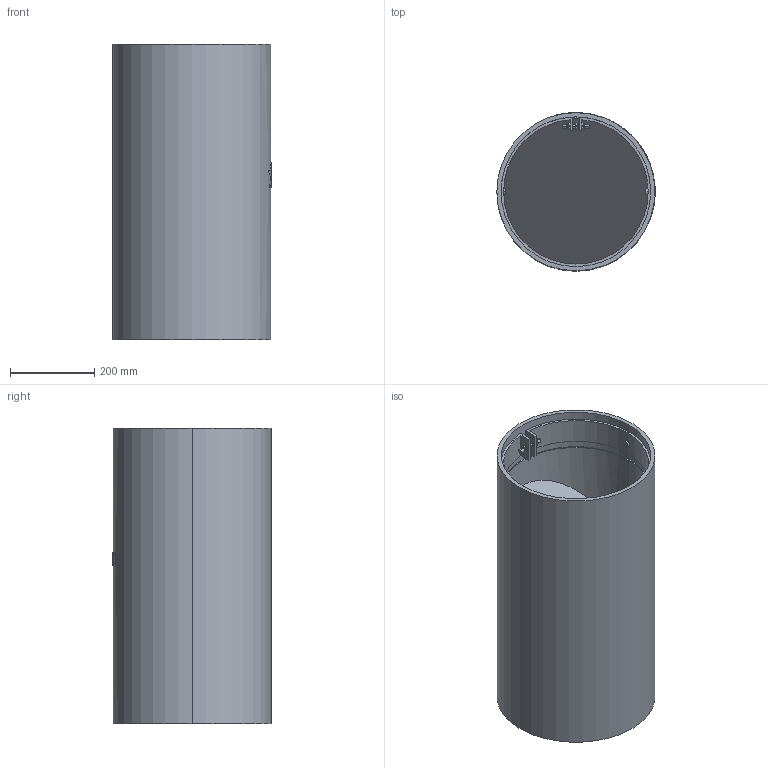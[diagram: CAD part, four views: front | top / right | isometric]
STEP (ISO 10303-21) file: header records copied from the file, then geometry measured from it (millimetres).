
FILE_DESCRIPTION (( 'STEP AP214' ), '1' );
FILE_NAME ('CF-IL-G5-PRO-S0375-NN-316-IDP.STEP', '2023-03-16T16:43:48', ( '' ), ( '' ), 'SwSTEP 2.0', 'SolidWorks 2022', '' );
FILE_SCHEMA (( 'AUTOMOTIVE_DESIGN' ));
Length unit declared in the file: millimetre
Products named in the file (3): CF-IL-G5-PRO-S0375-NN-316-IDP; Clamp 375_400; CF-IL-G5-PRO-S0375-NN-316-IDP_CM-0100-B
Assembly tree (2 placements, depth 2):
  CF-IL-G5-PRO-S0375-NN-316-IDP
    CF-IL-G5-PRO-S0375-NN-316-IDP_CM-0100-B
    Clamp 375_400
Bounding box: 375.5 x 375.5 x 700 mm (x, y, z)
Volume: 10648370.9 mm3; surface area: 2047200.2 mm2
Topology: 6 solids, 6 shells, 1687 faces, 4868 edges, 3230 vertices
Faces by surface type: plane 740, bspline 670, cylinder 142, cone 135
Entity records: 76043 total; most frequent: CARTESIAN_POINT 22767, ORIENTED_EDGE 9736, DIRECTION 4945, EDGE_CURVE 4868, VERTEX_POINT 3230, B_SPLINE_CURVE_WITH_KNOTS 2277, LINE 2231, VECTOR 2231
